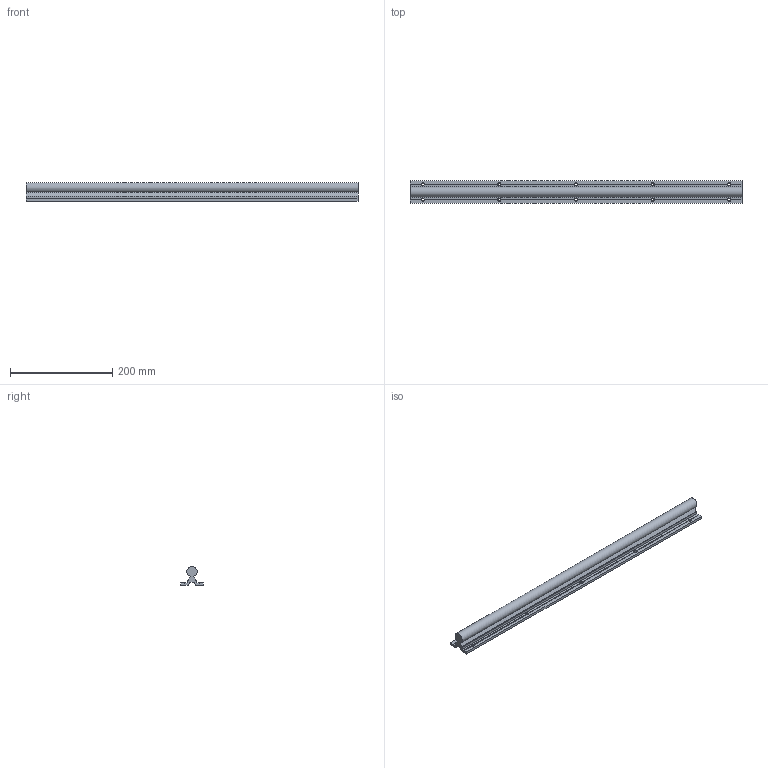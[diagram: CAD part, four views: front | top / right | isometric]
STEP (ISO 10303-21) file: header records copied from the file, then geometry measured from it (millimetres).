
FILE_DESCRIPTION(/* description */ (''),/* implementation_level */ '2;1');
FILE_NAME(/* name */ 'C:\Users\David\Desktop\stepFiles\Profilfuehrung\LFS20x650.stp',/* time_stamp */ '2018-06-24T15:21:55+02:00',/* author */ ('Buskamp'),/* organization */ (''),/* preprocessor_version */ 'ST-DEVELOPER v17',/* originating_system */ 'Autodesk Inventor 2019',/* authorisation */ '');
FILE_SCHEMA (('AUTOMOTIVE_DESIGN { 1 0 10303 214 3 1 1 }'));
Length unit declared in the file: millimetre
Products named in the file (1): Linearführung D20xvariabel
Bounding box: 650 x 45 x 37 mm (x, y, z)
Volume: 419808.2 mm3; surface area: 116085.5 mm2
Topology: 1 solids, 1 shells, 82 faces, 248 edges, 158 vertices
Faces by surface type: plane 55, cone 16, cylinder 11
Full cylindrical faces by diameter (mm): 5.5 x10
Entity records: 2831 total; most frequent: CARTESIAN_POINT 553, ORIENTED_EDGE 496, DIRECTION 470, EDGE_CURVE 248, AXIS2_PLACEMENT_3D 171, VERTEX_POINT 158, LINE 128, VECTOR 128
